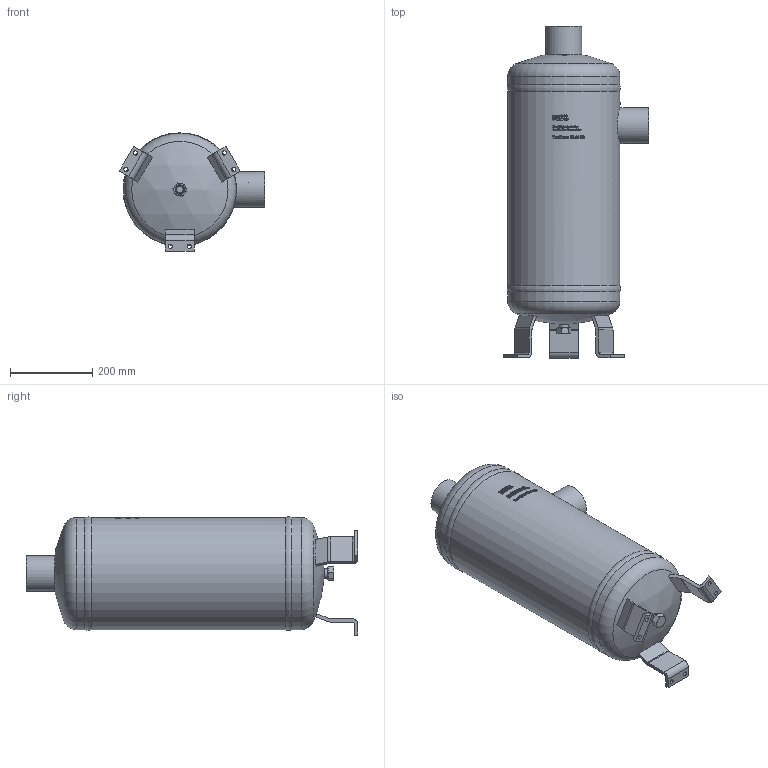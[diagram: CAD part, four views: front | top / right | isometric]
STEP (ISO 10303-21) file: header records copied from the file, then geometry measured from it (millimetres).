
FILE_DESCRIPTION(/* description */ (''),/* implementation_level */ '2;1');
FILE_NAME(/* name */ 'P:\FA\FA-80-32\FA-80-32.stp',/* time_stamp */ '2017-10-05T08:04:59+02:00',/* author */ ('neufeld'),/* organization */ (''),/* preprocessor_version */ 'ST-DEVELOPER v16.1',/* originating_system */ 'Autodesk Inventor 2016',/* authorisation */ '');
FILE_SCHEMA (('AUTOMOTIVE_DESIGN { 1 0 10303 214 3 1 1 }'));
Length unit declared in the file: millimetre
Products named in the file (2): FA-80-32; FA-80-32_1
Assembly tree (1 placements, depth 2):
  FA-80-32_1
    FA-80-32
Bounding box: 353.9 x 807.87 x 288.18 mm (x, y, z)
Volume: 37134040.7 mm3; surface area: 750315.6 mm2
Topology: 1 solids, 3 shells, 1330 faces, 3606 edges, 2399 vertices
Faces by surface type: plane 702, bspline 468, cylinder 136, cone 14, sphere 6, torus 4
Full cylindrical faces by diameter (mm): 10.5 x6, 15.75 x1, 19.05 x1, 22.5 x2, 23.6 x2, 80.3 x2, 87 x2, 273 x1, 273.2 x2
Entity records: 52000 total; most frequent: CARTESIAN_POINT 20893, ORIENTED_EDGE 7154, DIRECTION 5270, EDGE_CURVE 3577, VERTEX_POINT 2395, AXIS2_PLACEMENT_3D 1792, LINE 1686, VECTOR 1686
